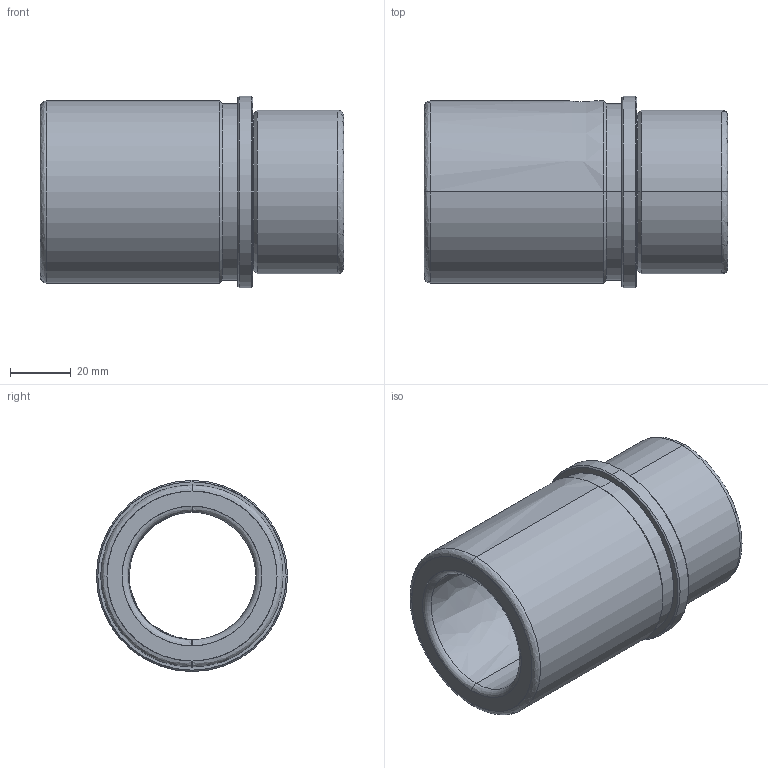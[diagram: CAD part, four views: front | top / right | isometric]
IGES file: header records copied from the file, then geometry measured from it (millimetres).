
Start section: START RECORD GO HERE.
Global section: file name: FAMO-SF1-E42 x 100.igs; native system: DASSAULT SYSTEMES CATIA V5 R20 - www.3ds.com; preprocessor: CATIA Version 5 Release 20 ; author: Utente; organization: NB04-ASUS; date: 20210106.174125; units: millimetre
Bounding box: 100 x 63 x 63 mm (x, y, z)
Surface area: 35160.1 mm2 (no closed solid volume)
Topology: 0 solids, 0 shells, 37 faces, 252 edges, 252 vertices
Faces by surface type: revolution 32, plane 5
